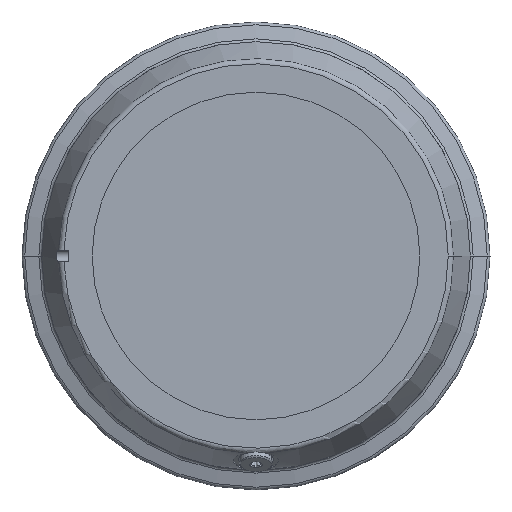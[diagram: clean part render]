
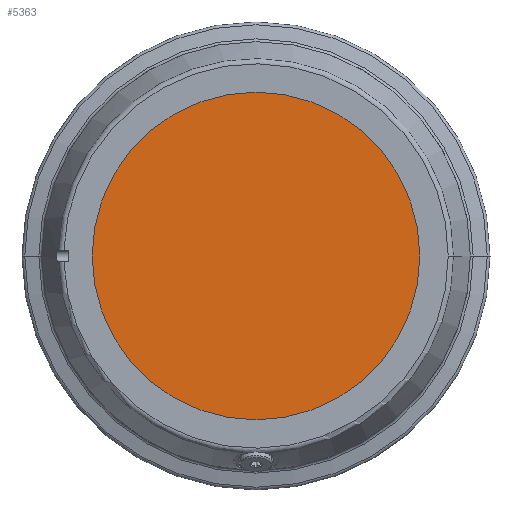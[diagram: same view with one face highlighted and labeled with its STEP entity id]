
A CAD part, left-side view. The second image highlights one B-rep face of the part: STEP entity #5363.
In plain terms, the highlighted planar face has unit normal (-1, 0, 0).
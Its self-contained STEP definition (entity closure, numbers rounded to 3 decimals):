
#29 = PLANE ( 'NONE',  #4363 ) ;
#445 = CIRCLE ( 'NONE', #1922, 87.5 ) ;
#832 = DIRECTION ( 'NONE',  ( 0., -1., 0. ) ) ;
#1026 = VERTEX_POINT ( 'NONE', #2351 ) ;
#1312 = EDGE_LOOP ( 'NONE', ( #2941, #5952 ) ) ;
#1922 = AXIS2_PLACEMENT_3D ( 'NONE', #4292, #5538, #832 ) ;
#2073 = DIRECTION ( 'NONE',  ( 0., -1., 0. ) ) ;
#2351 = CARTESIAN_POINT ( 'NONE',  ( 2237.198, 87.5, 2525. ) ) ;
#2941 = ORIENTED_EDGE ( 'NONE', *, *, #3881, .T. ) ;
#3069 = CARTESIAN_POINT ( 'NONE',  ( 2237.198, 0., 2525. ) ) ;
#3145 = DIRECTION ( 'NONE',  ( 0., -1., 0. ) ) ;
#3643 = FACE_OUTER_BOUND ( 'NONE', #1312, .T. ) ;
#3881 = EDGE_CURVE ( 'NONE', #6804, #1026, #445, .T. ) ;
#4292 = CARTESIAN_POINT ( 'NONE',  ( 2237.198, 0., 2525. ) ) ;
#4363 = AXIS2_PLACEMENT_3D ( 'NONE', #3069, #5498, #3145 ) ;
#4490 = AXIS2_PLACEMENT_3D ( 'NONE', #4638, #5779, #2073 ) ;
#4638 = CARTESIAN_POINT ( 'NONE',  ( 2237.198, 0., 2525. ) ) ;
#5363 = ADVANCED_FACE ( 'NONE', ( #3643 ), #29, .T. ) ;
#5498 = DIRECTION ( 'NONE',  ( -1., 0., 0. ) ) ;
#5538 = DIRECTION ( 'NONE',  ( -1., 0., 0. ) ) ;
#5779 = DIRECTION ( 'NONE',  ( -1., 0., 0. ) ) ;
#5952 = ORIENTED_EDGE ( 'NONE', *, *, #7176, .T. ) ;
#6659 = CIRCLE ( 'NONE', #4490, 87.5 ) ;
#6804 = VERTEX_POINT ( 'NONE', #6813 ) ;
#6813 = CARTESIAN_POINT ( 'NONE',  ( 2237.198, -87.5, 2525. ) ) ;
#7176 = EDGE_CURVE ( 'NONE', #1026, #6804, #6659, .T. ) ;
